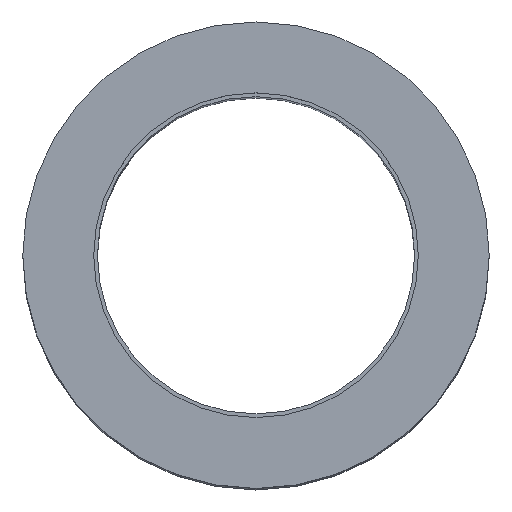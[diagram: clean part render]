
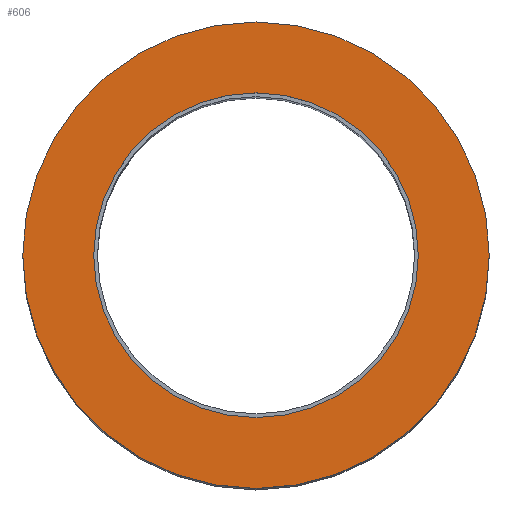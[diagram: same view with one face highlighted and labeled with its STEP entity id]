
A CAD part, top view. The second image highlights one B-rep face of the part: STEP entity #606.
In plain terms, the highlighted planar face has unit normal (0, 0, 1).
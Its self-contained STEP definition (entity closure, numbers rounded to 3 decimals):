
#2 = CARTESIAN_POINT ( 'NONE',  ( 0., 0., 0. ) ) ;
#4 = EDGE_LOOP ( 'NONE', ( #17, #407 ) ) ;
#5 = CARTESIAN_POINT ( 'NONE',  ( 0., 37.5, 0. ) ) ;
#17 = ORIENTED_EDGE ( 'NONE', *, *, #71, .T. ) ;
#26 = VERTEX_POINT ( 'NONE', #658 ) ;
#46 = ORIENTED_EDGE ( 'NONE', *, *, #461, .F. ) ;
#52 = DIRECTION ( 'NONE',  ( 1., 0., 0. ) ) ;
#57 = CARTESIAN_POINT ( 'NONE',  ( -26.1, 0., 0. ) ) ;
#71 = EDGE_CURVE ( 'NONE', #595, #26, #254, .T. ) ;
#99 = EDGE_CURVE ( 'NONE', #26, #595, #166, .T. ) ;
#100 = DIRECTION ( 'NONE',  ( 0., 0., 1. ) ) ;
#108 = CARTESIAN_POINT ( 'NONE',  ( 26.1, 0., 0. ) ) ;
#166 = CIRCLE ( 'NONE', #568, 37.5 ) ;
#174 = AXIS2_PLACEMENT_3D ( 'NONE', #5, #384, #382 ) ;
#182 = EDGE_LOOP ( 'NONE', ( #204, #46 ) ) ;
#199 = FACE_OUTER_BOUND ( 'NONE', #4, .T. ) ;
#204 = ORIENTED_EDGE ( 'NONE', *, *, #354, .F. ) ;
#219 = PLANE ( 'NONE',  #174 ) ;
#220 = FACE_BOUND ( 'NONE', #182, .T. ) ;
#253 = DIRECTION ( 'NONE',  ( 1., 0., 0. ) ) ;
#254 = CIRCLE ( 'NONE', #529, 37.5 ) ;
#259 = DIRECTION ( 'NONE',  ( 0., 0., 1. ) ) ;
#318 = CARTESIAN_POINT ( 'NONE',  ( 37.5, 0., 0. ) ) ;
#349 = CARTESIAN_POINT ( 'NONE',  ( 0., 0., 0. ) ) ;
#354 = EDGE_CURVE ( 'NONE', #410, #575, #611, .T. ) ;
#382 = DIRECTION ( 'NONE',  ( 1., 0., 0. ) ) ;
#384 = DIRECTION ( 'NONE',  ( 0., 0., 1. ) ) ;
#407 = ORIENTED_EDGE ( 'NONE', *, *, #99, .T. ) ;
#410 = VERTEX_POINT ( 'NONE', #108 ) ;
#449 = DIRECTION ( 'NONE',  ( 1., 0., 0. ) ) ;
#458 = CARTESIAN_POINT ( 'NONE',  ( 0., 0., 0. ) ) ;
#461 = EDGE_CURVE ( 'NONE', #575, #410, #656, .T. ) ;
#492 = AXIS2_PLACEMENT_3D ( 'NONE', #2, #259, #52 ) ;
#529 = AXIS2_PLACEMENT_3D ( 'NONE', #349, #557, #668 ) ;
#557 = DIRECTION ( 'NONE',  ( 0., 0., 1. ) ) ;
#568 = AXIS2_PLACEMENT_3D ( 'NONE', #601, #609, #449 ) ;
#575 = VERTEX_POINT ( 'NONE', #57 ) ;
#595 = VERTEX_POINT ( 'NONE', #318 ) ;
#601 = CARTESIAN_POINT ( 'NONE',  ( 0., 0., 0. ) ) ;
#606 = ADVANCED_FACE ( 'NONE', ( #199, #220 ), #219, .T. ) ;
#609 = DIRECTION ( 'NONE',  ( 0., 0., 1. ) ) ;
#611 = CIRCLE ( 'NONE', #638, 26.1 ) ;
#638 = AXIS2_PLACEMENT_3D ( 'NONE', #458, #100, #253 ) ;
#656 = CIRCLE ( 'NONE', #492, 26.1 ) ;
#658 = CARTESIAN_POINT ( 'NONE',  ( -37.5, 0., 0. ) ) ;
#668 = DIRECTION ( 'NONE',  ( 1., 0., 0. ) ) ;
